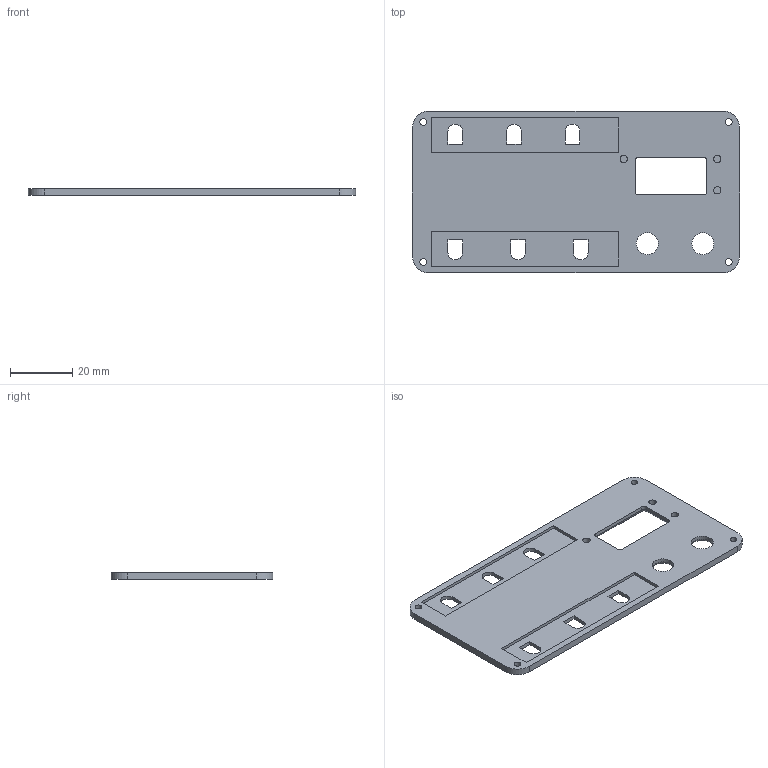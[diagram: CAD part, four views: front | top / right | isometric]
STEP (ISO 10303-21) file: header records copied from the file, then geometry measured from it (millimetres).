
FILE_DESCRIPTION(('HOOPS Exchange Step'),'2;1');
FILE_NAME('/private/var/mobile/Containers/Data/Application/FB40817A-7684-4F88-942F-7041838253E8/tmp/export/temp_export','2025-11-09T18:23:17+01:00',('mobile'),('Shapr3D Limited'),'HOOPS Exchange 2025.5','Shapr3D','Authorized');
FILE_SCHEMA( ('AP242_MANAGED_MODEL_BASED_3D_ENGINEERING_MIM_LF {1 0 10303 442 1 1 4}') );
Length unit declared in the file: millimetre
Products named in the file (1): root
Bounding box: 104.9 x 51.9 x 2.2 mm (x, y, z)
Volume: 9551 mm3; surface area: 11168.8 mm2
Topology: 1 solids, 1 shells, 74 faces, 199 edges, 132 vertices
Faces by surface type: plane 41, cylinder 27, torus 6
Full cylindrical faces by diameter (mm): 2.2 x4, 2.35 x3, 7 x2
Entity records: 2425 total; most frequent: DIRECTION 421, CARTESIAN_POINT 407, ORIENTED_EDGE 398, EDGE_CURVE 199, AXIS2_PLACEMENT_3D 146, VERTEX_POINT 132, VECTOR 129, LINE 129
